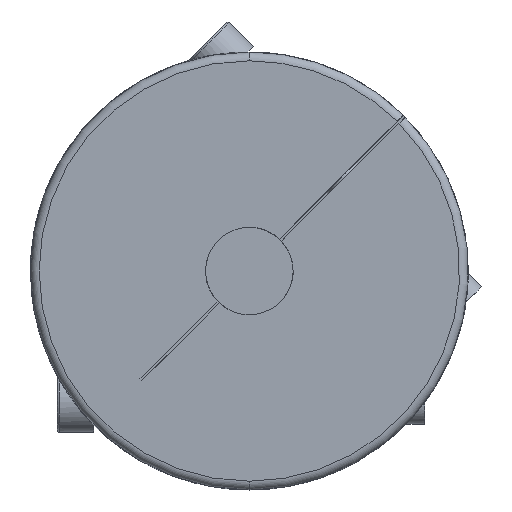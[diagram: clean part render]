
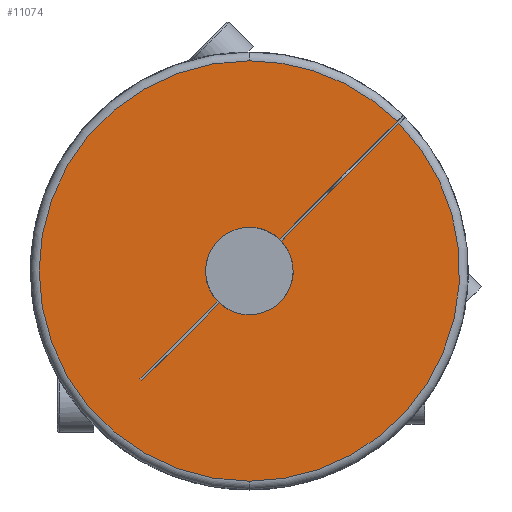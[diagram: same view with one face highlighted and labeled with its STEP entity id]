
A CAD part, left-side view. The second image highlights one B-rep face of the part: STEP entity #11074.
In plain terms, the highlighted planar face has unit normal (-1, 0, 0).
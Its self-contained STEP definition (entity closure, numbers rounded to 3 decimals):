
#45 = AXIS2_PLACEMENT_3D ( 'NONE', #1194, #8236, #2201 ) ;
#103 = VERTEX_POINT ( 'NONE', #3092 ) ;
#170 = EDGE_CURVE ( 'NONE', #3491, #3010, #4569, .T. ) ;
#284 = DIRECTION ( 'NONE',  ( 0., -0.707, -0.707 ) ) ;
#325 = CARTESIAN_POINT ( 'NONE',  ( -57., 19.622, -19.976 ) ) ;
#352 = ORIENTED_EDGE ( 'NONE', *, *, #8308, .F. ) ;
#371 = ORIENTED_EDGE ( 'NONE', *, *, #4029, .F. ) ;
#489 = DIRECTION ( 'NONE',  ( 0., 0., -1. ) ) ;
#702 = DIRECTION ( 'NONE',  ( 0., -0.707, 0.707 ) ) ;
#868 = DIRECTION ( 'NONE',  ( 0., 0., 1. ) ) ;
#885 = EDGE_CURVE ( 'NONE', #4586, #10295, #904, .T. ) ;
#904 = CIRCLE ( 'NONE', #4556, 38.4 ) ;
#1103 = CIRCLE ( 'NONE', #6692, 38.4 ) ;
#1171 = DIRECTION ( 'NONE',  ( -1., 0., 0. ) ) ;
#1185 = ORIENTED_EDGE ( 'NONE', *, *, #10837, .F. ) ;
#1194 = CARTESIAN_POINT ( 'NONE',  ( -57., 0., 0. ) ) ;
#1201 = EDGE_CURVE ( 'NONE', #103, #6002, #8472, .T. ) ;
#1309 = CIRCLE ( 'NONE', #45, 38.4 ) ;
#1460 = ORIENTED_EDGE ( 'NONE', *, *, #2909, .T. ) ;
#1731 = CIRCLE ( 'NONE', #9910, 8. ) ;
#1906 = VERTEX_POINT ( 'NONE', #2792 ) ;
#1915 = DIRECTION ( 'NONE',  ( 0., 0.707, -0.707 ) ) ;
#2095 = CIRCLE ( 'NONE', #7333, 8. ) ;
#2201 = DIRECTION ( 'NONE',  ( 0., 0., -1. ) ) ;
#2306 = CARTESIAN_POINT ( 'NONE',  ( -57., 19.976, -19.622 ) ) ;
#2792 = CARTESIAN_POINT ( 'NONE',  ( -57., -26.976, 27.329 ) ) ;
#2909 = EDGE_CURVE ( 'NONE', #1906, #3412, #1309, .T. ) ;
#3010 = VERTEX_POINT ( 'NONE', #325 ) ;
#3092 = CARTESIAN_POINT ( 'NONE',  ( -57., 5.477, -5.831 ) ) ;
#3110 = CARTESIAN_POINT ( 'NONE',  ( -57., 0., 0. ) ) ;
#3182 = AXIS2_PLACEMENT_3D ( 'NONE', #11975, #9944, #868 ) ;
#3230 = VECTOR ( 'NONE', #1915, 1000. ) ;
#3304 = EDGE_LOOP ( 'NONE', ( #352, #9726, #1460, #10647, #11833, #6130, #4023, #6433, #371, #6750, #6930, #1185 ) ) ;
#3412 = VERTEX_POINT ( 'NONE', #7742 ) ;
#3485 = CARTESIAN_POINT ( 'NONE',  ( -57., 0., -38.4 ) ) ;
#3491 = VERTEX_POINT ( 'NONE', #6884 ) ;
#3576 = LINE ( 'NONE', #3782, #11329 ) ;
#3782 = CARTESIAN_POINT ( 'NONE',  ( -57., -36.593, 36.946 ) ) ;
#4023 = ORIENTED_EDGE ( 'NONE', *, *, #5910, .F. ) ;
#4029 = EDGE_CURVE ( 'NONE', #3010, #103, #10292, .T. ) ;
#4125 = DIRECTION ( 'NONE',  ( 0., 0., 1. ) ) ;
#4323 = CARTESIAN_POINT ( 'NONE',  ( -57., 0., 0. ) ) ;
#4440 = EDGE_CURVE ( 'NONE', #3412, #4586, #1103, .T. ) ;
#4449 = VECTOR ( 'NONE', #702, 1000. ) ;
#4556 = AXIS2_PLACEMENT_3D ( 'NONE', #10940, #1171, #6254 ) ;
#4569 = LINE ( 'NONE', #2306, #6889 ) ;
#4586 = VERTEX_POINT ( 'NONE', #3485 ) ;
#4646 = DIRECTION ( 'NONE',  ( 0., -0.707, 0.707 ) ) ;
#4752 = CARTESIAN_POINT ( 'NONE',  ( -57., 19.622, -19.976 ) ) ;
#4852 = CARTESIAN_POINT ( 'NONE',  ( -57., 0., 0. ) ) ;
#4922 = VECTOR ( 'NONE', #4646, 1000. ) ;
#4976 = CARTESIAN_POINT ( 'NONE',  ( -57., -36.593, 36.946 ) ) ;
#5140 = CARTESIAN_POINT ( 'NONE',  ( -57., 0., 0. ) ) ;
#5250 = EDGE_CURVE ( 'NONE', #6569, #10295, #9794, .T. ) ;
#5335 = DIRECTION ( 'NONE',  ( 0., 0., -1. ) ) ;
#5510 = PLANE ( 'NONE',  #12580 ) ;
#5846 = DIRECTION ( 'NONE',  ( 0., 0., 1. ) ) ;
#5910 = EDGE_CURVE ( 'NONE', #6002, #6569, #1731, .T. ) ;
#6002 = VERTEX_POINT ( 'NONE', #7211 ) ;
#6113 = DIRECTION ( 'NONE',  ( 0., 0., 1. ) ) ;
#6130 = ORIENTED_EDGE ( 'NONE', *, *, #5250, .F. ) ;
#6254 = DIRECTION ( 'NONE',  ( 0., 0., -1. ) ) ;
#6433 = ORIENTED_EDGE ( 'NONE', *, *, #1201, .F. ) ;
#6455 = AXIS2_PLACEMENT_3D ( 'NONE', #3110, #10174, #4125 ) ;
#6496 = DIRECTION ( 'NONE',  ( 1., 0., 0. ) ) ;
#6569 = VERTEX_POINT ( 'NONE', #9660 ) ;
#6692 = AXIS2_PLACEMENT_3D ( 'NONE', #4323, #11401, #5335 ) ;
#6750 = ORIENTED_EDGE ( 'NONE', *, *, #170, .F. ) ;
#6884 = CARTESIAN_POINT ( 'NONE',  ( -57., 19.976, -19.622 ) ) ;
#6889 = VECTOR ( 'NONE', #284, 1000. ) ;
#6930 = ORIENTED_EDGE ( 'NONE', *, *, #8242, .F. ) ;
#7039 = EDGE_CURVE ( 'NONE', #1906, #10254, #3576, .T. ) ;
#7211 = CARTESIAN_POINT ( 'NONE',  ( -57., 0., -8. ) ) ;
#7279 = FACE_OUTER_BOUND ( 'NONE', #3304, .T. ) ;
#7333 = AXIS2_PLACEMENT_3D ( 'NONE', #4852, #11948, #5846 ) ;
#7546 = CARTESIAN_POINT ( 'NONE',  ( -57., 5.831, -5.477 ) ) ;
#7742 = CARTESIAN_POINT ( 'NONE',  ( -57., 0., 38.4 ) ) ;
#7929 = CIRCLE ( 'NONE', #6455, 8. ) ;
#8236 = DIRECTION ( 'NONE',  ( -1., 0., 0. ) ) ;
#8242 = EDGE_CURVE ( 'NONE', #9038, #3491, #11306, .T. ) ;
#8308 = EDGE_CURVE ( 'NONE', #10254, #12708, #7929, .T. ) ;
#8472 = CIRCLE ( 'NONE', #3182, 8. ) ;
#8724 = CARTESIAN_POINT ( 'NONE',  ( -57., -5.477, 5.831 ) ) ;
#9038 = VERTEX_POINT ( 'NONE', #7546 ) ;
#9660 = CARTESIAN_POINT ( 'NONE',  ( -57., -5.831, 5.477 ) ) ;
#9726 = ORIENTED_EDGE ( 'NONE', *, *, #7039, .F. ) ;
#9794 = LINE ( 'NONE', #4752, #4449 ) ;
#9910 = AXIS2_PLACEMENT_3D ( 'NONE', #5140, #12224, #6113 ) ;
#9944 = DIRECTION ( 'NONE',  ( -1., 0., 0. ) ) ;
#10174 = DIRECTION ( 'NONE',  ( -1., 0., 0. ) ) ;
#10254 = VERTEX_POINT ( 'NONE', #8724 ) ;
#10292 = LINE ( 'NONE', #10740, #4922 ) ;
#10295 = VERTEX_POINT ( 'NONE', #11842 ) ;
#10647 = ORIENTED_EDGE ( 'NONE', *, *, #4440, .T. ) ;
#10740 = CARTESIAN_POINT ( 'NONE',  ( -57., 19.622, -19.976 ) ) ;
#10837 = EDGE_CURVE ( 'NONE', #12708, #9038, #2095, .T. ) ;
#10864 = DIRECTION ( 'NONE',  ( 0., 0.707, -0.707 ) ) ;
#10940 = CARTESIAN_POINT ( 'NONE',  ( -57., 0., 0. ) ) ;
#11074 = ADVANCED_FACE ( 'NONE', ( #7279 ), #5510, .F. ) ;
#11306 = LINE ( 'NONE', #4976, #3230 ) ;
#11327 = CARTESIAN_POINT ( 'NONE',  ( -57., 0., 8. ) ) ;
#11329 = VECTOR ( 'NONE', #10864, 1000. ) ;
#11401 = DIRECTION ( 'NONE',  ( -1., 0., 0. ) ) ;
#11833 = ORIENTED_EDGE ( 'NONE', *, *, #885, .T. ) ;
#11842 = CARTESIAN_POINT ( 'NONE',  ( -57., -27.329, 26.976 ) ) ;
#11948 = DIRECTION ( 'NONE',  ( -1., 0., 0. ) ) ;
#11975 = CARTESIAN_POINT ( 'NONE',  ( -57., 0., 0. ) ) ;
#12224 = DIRECTION ( 'NONE',  ( -1., 0., 0. ) ) ;
#12580 = AXIS2_PLACEMENT_3D ( 'NONE', #12628, #6496, #489 ) ;
#12628 = CARTESIAN_POINT ( 'NONE',  ( -57., 40., 0. ) ) ;
#12708 = VERTEX_POINT ( 'NONE', #11327 ) ;
